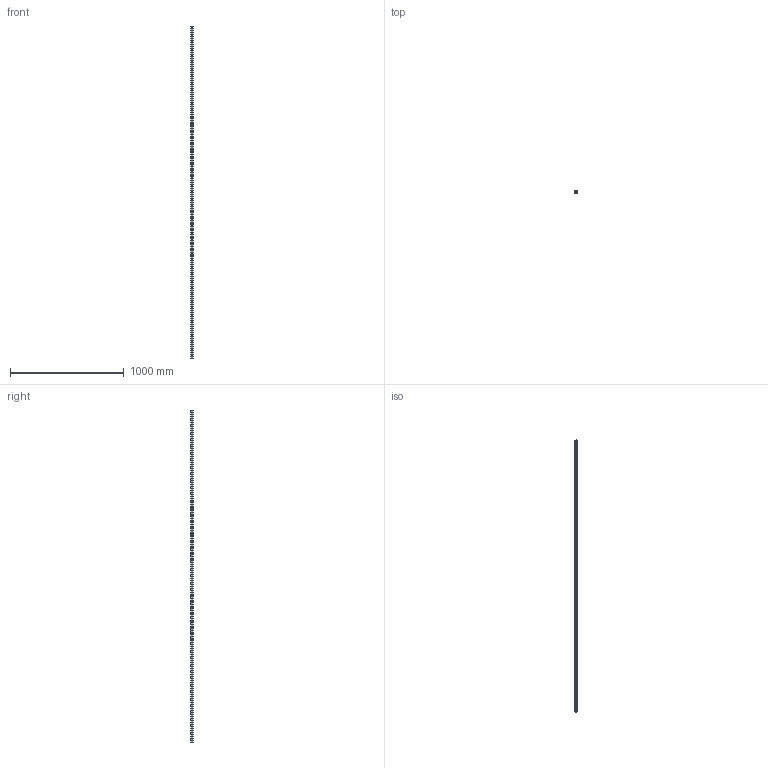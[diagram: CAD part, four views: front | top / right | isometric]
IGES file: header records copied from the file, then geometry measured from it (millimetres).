
Start section: SolidWorks IGES file using analytic representation for surfaces
Global section: file name: C:\Users\IanO\Desktop\L1016_v2\L1016.BL25_v2\L1016.BL25_v2_20160611_IGES\L1016.BL25-2920.igs; native system: SolidWorks 2017; preprocessor: SolidWorks 2017; author: IanO; date: 190612.131319; units: millimetre
Bounding box: 23 x 19.2 x 2920 mm (x, y, z)
Surface area: 276291.8 mm2 (no closed solid volume)
Topology: 0 solids, 0 shells, 271 faces, 7224 edges, 7224 vertices
Faces by surface type: revolution 200, bspline 71
